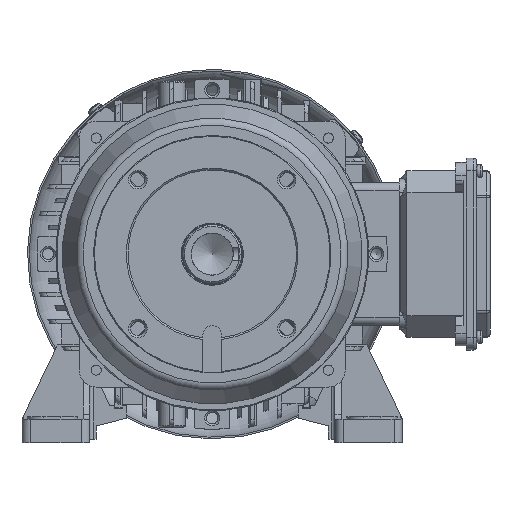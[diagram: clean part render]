
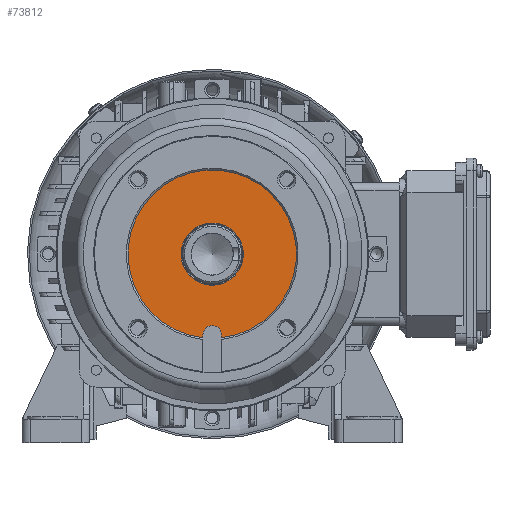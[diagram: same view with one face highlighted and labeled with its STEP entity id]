
A CAD part, left-side view. The second image highlights one B-rep face of the part: STEP entity #73812.
In plain terms, the highlighted planar face has unit normal (-1, 0, 0).
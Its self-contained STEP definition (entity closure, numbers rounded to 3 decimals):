
#1008=FACE_BOUND('',#10407,.T.);
#3347=PLANE('',#79453);
#6287=FACE_OUTER_BOUND('',#10406,.T.);
#10406=EDGE_LOOP('',(#59162,#59163,#59164,#59165));
#10407=EDGE_LOOP('',(#59166,#59167));
#14454=CIRCLE('',#79452,5.5);
#14455=CIRCLE('',#79454,50.);
#14456=CIRCLE('',#79455,18.5);
#14457=CIRCLE('',#79456,18.5);
#20289=LINE('',#121279,#26595);
#20296=LINE('',#121306,#26602);
#26595=VECTOR('',#95000,1.697);
#26602=VECTOR('',#95013,1.697);
#33311=VERTEX_POINT('',#121276);
#33312=VERTEX_POINT('',#121278);
#33320=VERTEX_POINT('',#121303);
#33321=VERTEX_POINT('',#121305);
#33376=VERTEX_POINT('',#121487);
#33377=VERTEX_POINT('',#121488);
#42553=EDGE_CURVE('',#33312,#33311,#20289,.T.);
#42563=EDGE_CURVE('',#33321,#33320,#20296,.T.);
#42627=EDGE_CURVE('',#33311,#33321,#14454,.T.);
#42628=EDGE_CURVE('',#33312,#33320,#14455,.T.);
#42629=EDGE_CURVE('',#33376,#33377,#14456,.T.);
#42630=EDGE_CURVE('',#33377,#33376,#14457,.T.);
#59162=ORIENTED_EDGE('',*,*,#42628,.F.);
#59163=ORIENTED_EDGE('',*,*,#42553,.T.);
#59164=ORIENTED_EDGE('',*,*,#42627,.T.);
#59165=ORIENTED_EDGE('',*,*,#42563,.T.);
#59166=ORIENTED_EDGE('',*,*,#42629,.T.);
#59167=ORIENTED_EDGE('',*,*,#42630,.T.);
#73812=ADVANCED_FACE('',(#6287,#1008),#3347,.F.);
#79452=AXIS2_PLACEMENT_3D('',#121484,#95109,#95110);
#79453=AXIS2_PLACEMENT_3D('',#121485,#95111,#95112);
#79454=AXIS2_PLACEMENT_3D('',#121486,#95113,#95114);
#79455=AXIS2_PLACEMENT_3D('',#121489,#95115,#95116);
#79456=AXIS2_PLACEMENT_3D('',#121490,#95117,#95118);
#95000=DIRECTION('',(0.,0.,1.));
#95013=DIRECTION('',(0.,0.,-1.));
#95109=DIRECTION('center_axis',(1.,0.,0.));
#95110=DIRECTION('ref_axis',(0.,-0.707,-0.707));
#95111=DIRECTION('center_axis',(1.,0.,0.));
#95112=DIRECTION('ref_axis',(0.,-0.707,-0.707));
#95113=DIRECTION('center_axis',(1.,0.,0.));
#95114=DIRECTION('ref_axis',(0.,-0.707,-0.707));
#95115=DIRECTION('center_axis',(1.,0.,0.));
#95116=DIRECTION('ref_axis',(0.,-0.707,-0.707));
#95117=DIRECTION('center_axis',(1.,0.,0.));
#95118=DIRECTION('ref_axis',(0.,-0.707,-0.707));
#121276=CARTESIAN_POINT('',(-30.5,5.5,-48.));
#121278=CARTESIAN_POINT('',(-30.5,5.5,-49.697));
#121279=CARTESIAN_POINT('',(-30.5,5.5,-35.355));
#121303=CARTESIAN_POINT('',(-30.5,-5.5,-49.697));
#121305=CARTESIAN_POINT('',(-30.5,-5.5,-48.));
#121306=CARTESIAN_POINT('',(-30.5,-5.5,-35.355));
#121484=CARTESIAN_POINT('Origin',(-30.5,0.,-48.));
#121485=CARTESIAN_POINT('Origin',(-30.5,-35.355,-35.355));
#121486=CARTESIAN_POINT('Origin',(-30.5,0.,0.));
#121487=CARTESIAN_POINT('',(-30.5,-13.081,-13.081));
#121488=CARTESIAN_POINT('',(-30.5,13.081,13.081));
#121489=CARTESIAN_POINT('Origin',(-30.5,0.,0.));
#121490=CARTESIAN_POINT('Origin',(-30.5,0.,0.));
